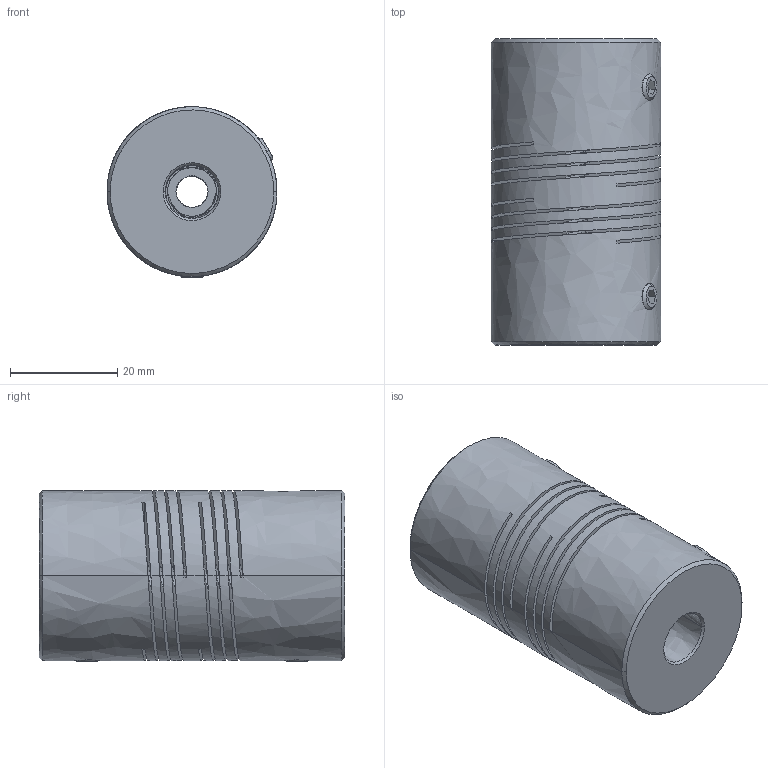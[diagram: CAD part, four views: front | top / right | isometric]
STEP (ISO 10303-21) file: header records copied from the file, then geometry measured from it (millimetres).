
FILE_DESCRIPTION((''),'2;1');
FILE_NAME('710_25','2026-02-24T',('SYSTEM'),(''),'PRO/ENGINEER BY PARAMETRIC TECHNOLOGY CORPORATION, 2016360','PRO/ENGINEER BY PARAMETRIC TECHNOLOGY CORPORATION, 2016360','');
FILE_SCHEMA(('AUTOMOTIVE_DESIGN { 1 0 10303 214 1 1 1 1 }'));
Length unit declared in the file: inch
Products named in the file (1): 710_25
Bounding box: 31.75 x 57.15 x 31.88 mm (x, y, z)
Volume: 38484.2 mm3; surface area: 19067.9 mm2
Topology: 1 solids, 1 shells, 140 faces, 407 edges, 262 vertices
Faces by surface type: bspline 140
Entity records: 9830 total; most frequent: CARTESIAN_POINT 6630, ORIENTED_EDGE 798, EDGE_CURVE 399, B_SPLINE_CURVE_WITH_KNOTS 284, VERTEX_POINT 262, EDGE_LOOP 155, FACE_OUTER_BOUND 140, ADVANCED_FACE 140
